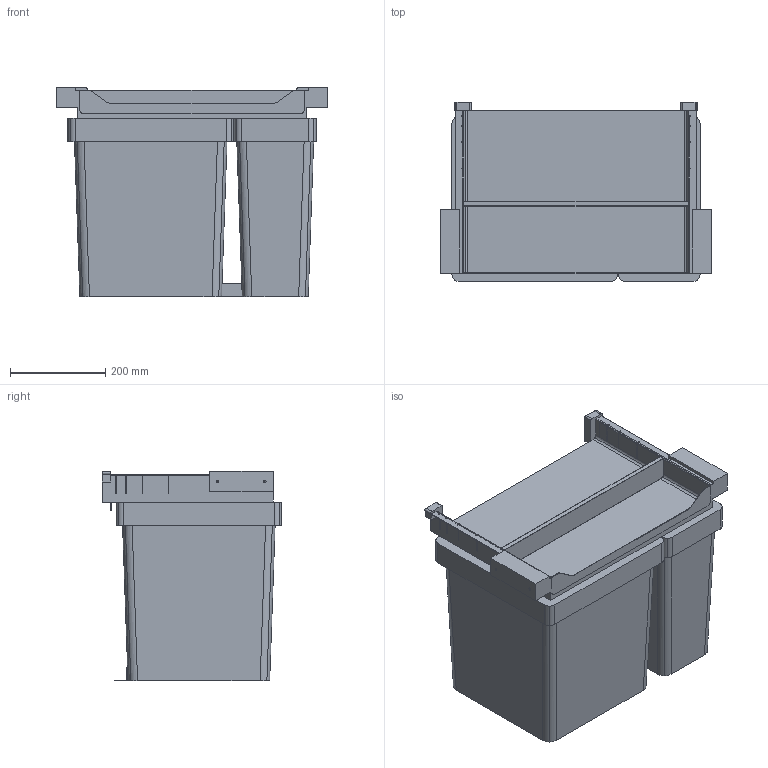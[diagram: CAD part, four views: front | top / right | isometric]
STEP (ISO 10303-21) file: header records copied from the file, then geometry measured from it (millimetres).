
FILE_DESCRIPTION(('STEP AP242'),'1');
FILE_NAME('OPO_53.433.61_volu_schn_3d.stp','2025-11-08T20:31:37',(' '),(' '),'Spatial InterOp 3D',' ',' ');
FILE_SCHEMA(('AP242_MANAGED_MODEL_BASED_3D_ENGINEERING_MIM_LF {1 0 10303 442 1 1 4}'));
Length unit declared in the file: millimetre
Products named in the file (1): 1
Bounding box: 568 x 375.5 x 439.99 mm (x, y, z)
Volume: 56949224.3 mm3; surface area: 1728113.8 mm2
Topology: 3 solids, 3 shells, 264 faces, 1367 edges, 1700 vertices
Faces by surface type: plane 150, cylinder 106, cone 8
Entity records: 18106 total; most frequent: DIRECTION 2170, CARTESIAN_POINT 2117, ORIENTED_EDGE 1504, LINE 1084, VECTOR 1084, STYLED_ITEM 871, PRESENTATION_STYLE_ASSIGNMENT 871, COLOUR_RGB 871
